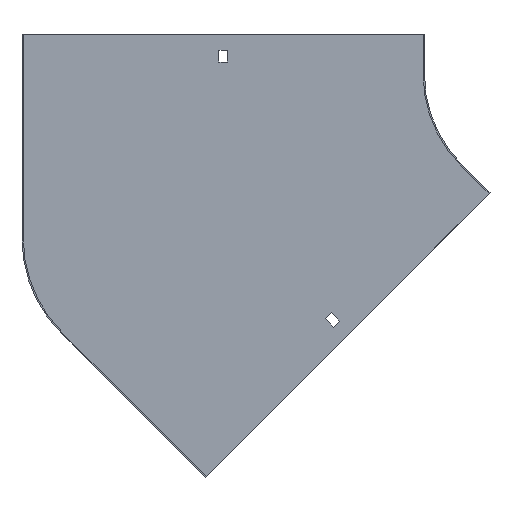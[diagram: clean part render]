
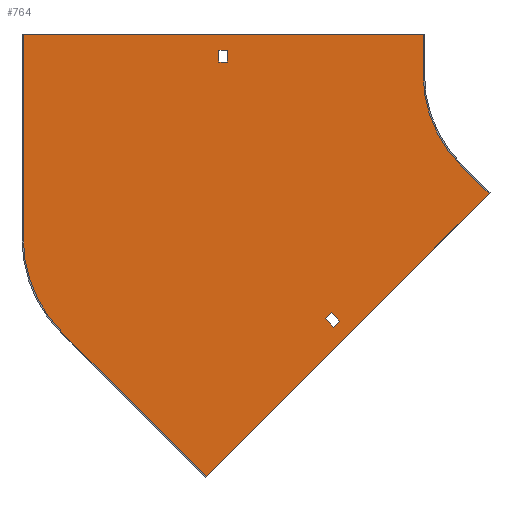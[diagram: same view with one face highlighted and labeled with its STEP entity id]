
A CAD part, front view. The second image highlights one B-rep face of the part: STEP entity #764.
In plain terms, the highlighted planar face has unit normal (0, -1, 0).
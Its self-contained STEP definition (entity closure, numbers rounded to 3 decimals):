
#3 = ORIENTED_EDGE ( 'NONE', *, *, #31, .F. ) ;
#6 = VERTEX_POINT ( 'NONE', #684 ) ;
#14 = LINE ( 'NONE', #70, #423 ) ;
#15 = LINE ( 'NONE', #466, #359 ) ;
#22 = DIRECTION ( 'NONE',  ( -0.707, 0., 0.707 ) ) ;
#31 = EDGE_CURVE ( 'NONE', #194, #618, #160, .T. ) ;
#45 = VERTEX_POINT ( 'NONE', #229 ) ;
#50 = DIRECTION ( 'NONE',  ( 0., 0., -1. ) ) ;
#56 = VERTEX_POINT ( 'NONE', #638 ) ;
#60 = ORIENTED_EDGE ( 'NONE', *, *, #272, .T. ) ;
#61 = VECTOR ( 'NONE', #645, 1000. ) ;
#67 = ORIENTED_EDGE ( 'NONE', *, *, #338, .F. ) ;
#70 = CARTESIAN_POINT ( 'NONE',  ( 0., -1., 9. ) ) ;
#75 = ORIENTED_EDGE ( 'NONE', *, *, #614, .F. ) ;
#79 = EDGE_CURVE ( 'NONE', #56, #399, #14, .T. ) ;
#87 = VECTOR ( 'NONE', #179, 1000. ) ;
#93 = DIRECTION ( 'NONE',  ( -0.707, 0., -0.707 ) ) ;
#101 = LINE ( 'NONE', #492, #426 ) ;
#103 = CARTESIAN_POINT ( 'NONE',  ( -175.893, -1., -175.893 ) ) ;
#109 = EDGE_CURVE ( 'NONE', #621, #413, #676, .T. ) ;
#122 = EDGE_CURVE ( 'NONE', #429, #56, #517, .T. ) ;
#128 = CARTESIAN_POINT ( 'NONE',  ( -48.437, -1., -90.863 ) ) ;
#137 = ORIENTED_EDGE ( 'NONE', *, *, #109, .F. ) ;
#143 = EDGE_CURVE ( 'NONE', #618, #6, #101, .T. ) ;
#160 = LINE ( 'NONE', #103, #619 ) ;
#173 = CARTESIAN_POINT ( 'NONE',  ( 0., -1., 0. ) ) ;
#174 = ORIENTED_EDGE ( 'NONE', *, *, #79, .T. ) ;
#176 = CARTESIAN_POINT ( 'NONE',  ( -99.5, -1., 0. ) ) ;
#179 = DIRECTION ( 'NONE',  ( 0., 0., -1. ) ) ;
#194 = VERTEX_POINT ( 'NONE', #460 ) ;
#198 = EDGE_LOOP ( 'NONE', ( #711, #847, #174, #60 ) ) ;
#205 = FACE_BOUND ( 'NONE', #632, .T. ) ;
#208 = EDGE_CURVE ( 'NONE', #45, #344, #855, .T. ) ;
#210 = CARTESIAN_POINT ( 'NONE',  ( 0., -1., 0. ) ) ;
#215 = CIRCLE ( 'NONE', #749, 100.5 ) ;
#229 = CARTESIAN_POINT ( 'NONE',  ( -404.5, -1., -125.921 ) ) ;
#230 = CARTESIAN_POINT ( 'NONE',  ( -255.25, -1., 18. ) ) ;
#239 = CARTESIAN_POINT ( 'NONE',  ( -255.25, -1., 0. ) ) ;
#258 = DIRECTION ( 'NONE',  ( 0.707, 0., -0.707 ) ) ;
#262 = EDGE_CURVE ( 'NONE', #410, #663, #379, .T. ) ;
#267 = LINE ( 'NONE', #595, #686 ) ;
#271 = FACE_OUTER_BOUND ( 'NONE', #581, .T. ) ;
#272 = EDGE_CURVE ( 'NONE', #399, #289, #840, .T. ) ;
#289 = VERTEX_POINT ( 'NONE', #230 ) ;
#293 = ORIENTED_EDGE ( 'NONE', *, *, #441, .F. ) ;
#304 = CARTESIAN_POINT ( 'NONE',  ( -99.5, -1., 30. ) ) ;
#310 = DIRECTION ( 'NONE',  ( 0.707, 0., 0.707 ) ) ;
#325 = DIRECTION ( 'NONE',  ( -0.707, 0., -0.707 ) ) ;
#329 = VECTOR ( 'NONE', #325, 1000. ) ;
#338 = EDGE_CURVE ( 'NONE', #413, #45, #215, .T. ) ;
#344 = VERTEX_POINT ( 'NONE', #717 ) ;
#349 = CARTESIAN_POINT ( 'NONE',  ( -264.811, -1., -307.238 ) ) ;
#351 = LINE ( 'NONE', #620, #445 ) ;
#359 = VECTOR ( 'NONE', #728, 1000. ) ;
#360 = VERTEX_POINT ( 'NONE', #774 ) ;
#379 = LINE ( 'NONE', #304, #527 ) ;
#385 = ORIENTED_EDGE ( 'NONE', *, *, #262, .F. ) ;
#399 = VERTEX_POINT ( 'NONE', #781 ) ;
#409 = DIRECTION ( 'NONE',  ( 0.707, 0., -0.707 ) ) ;
#410 = VERTEX_POINT ( 'NONE', #575 ) ;
#413 = VERTEX_POINT ( 'NONE', #652 ) ;
#419 = CARTESIAN_POINT ( 'NONE',  ( -70.357, -1., -70.357 ) ) ;
#422 = EDGE_CURVE ( 'NONE', #344, #410, #15, .T. ) ;
#423 = VECTOR ( 'NONE', #464, 1000. ) ;
#426 = VECTOR ( 'NONE', #93, 1000. ) ;
#429 = VERTEX_POINT ( 'NONE', #861 ) ;
#432 = EDGE_CURVE ( 'NONE', #360, #621, #606, .T. ) ;
#433 = ORIENTED_EDGE ( 'NONE', *, *, #566, .F. ) ;
#435 = CARTESIAN_POINT ( 'NONE',  ( -167.761, -1., -193.217 ) ) ;
#441 = EDGE_CURVE ( 'NONE', #605, #360, #267, .T. ) ;
#445 = VECTOR ( 'NONE', #409, 1000. ) ;
#460 = CARTESIAN_POINT ( 'NONE',  ( -163.165, -1., -188.621 ) ) ;
#464 = DIRECTION ( 'NONE',  ( -1., 0., 0. ) ) ;
#466 = CARTESIAN_POINT ( 'NONE',  ( -405.5, -1., 30. ) ) ;
#467 = VECTOR ( 'NONE', #22, 1000. ) ;
#473 = FACE_BOUND ( 'NONE', #198, .T. ) ;
#481 = ORIENTED_EDGE ( 'NONE', *, *, #422, .F. ) ;
#492 = CARTESIAN_POINT ( 'NONE',  ( 6.364, -1., -6.364 ) ) ;
#503 = CARTESIAN_POINT ( 'NONE',  ( -304., -1., -125.921 ) ) ;
#510 = CARTESIAN_POINT ( 'NONE',  ( -404.5, -1., -125.921 ) ) ;
#515 = LINE ( 'NONE', #782, #703 ) ;
#517 = LINE ( 'NONE', #783, #87 ) ;
#527 = VECTOR ( 'NONE', #576, 1000. ) ;
#529 = EDGE_CURVE ( 'NONE', #289, #429, #571, .T. ) ;
#566 = EDGE_CURVE ( 'NONE', #663, #605, #773, .T. ) ;
#567 = DIRECTION ( 'NONE',  ( 1., 0., 0. ) ) ;
#571 = LINE ( 'NONE', #768, #597 ) ;
#575 = CARTESIAN_POINT ( 'NONE',  ( -99.5, -1., 30. ) ) ;
#576 = DIRECTION ( 'NONE',  ( 0., 0., -1. ) ) ;
#581 = EDGE_LOOP ( 'NONE', ( #481, #820, #67, #137, #799, #293, #433, #385 ) ) ;
#588 = DIRECTION ( 'NONE',  ( 0., -1., 0. ) ) ;
#595 = CARTESIAN_POINT ( 'NONE',  ( -70.357, -1., -70.357 ) ) ;
#597 = VECTOR ( 'NONE', #567, 1000. ) ;
#605 = VERTEX_POINT ( 'NONE', #419 ) ;
#606 = LINE ( 'NONE', #128, #329 ) ;
#614 = EDGE_CURVE ( 'NONE', #6, #796, #351, .T. ) ;
#618 = VERTEX_POINT ( 'NONE', #673 ) ;
#619 = VECTOR ( 'NONE', #630, 1000. ) ;
#620 = CARTESIAN_POINT ( 'NONE',  ( -180.489, -1., -180.489 ) ) ;
#621 = VERTEX_POINT ( 'NONE', #812 ) ;
#630 = DIRECTION ( 'NONE',  ( -0.707, 0., 0.707 ) ) ;
#632 = EDGE_LOOP ( 'NONE', ( #3, #716, #75, #761 ) ) ;
#638 = CARTESIAN_POINT ( 'NONE',  ( -248.75, -1., 9. ) ) ;
#645 = DIRECTION ( 'NONE',  ( 0., 0., 1. ) ) ;
#652 = CARTESIAN_POINT ( 'NONE',  ( -375.064, -1., -196.985 ) ) ;
#663 = VERTEX_POINT ( 'NONE', #176 ) ;
#671 = DIRECTION ( 'NONE',  ( 0., 0., -1. ) ) ;
#673 = CARTESIAN_POINT ( 'NONE',  ( -169.529, -1., -182.257 ) ) ;
#674 = AXIS2_PLACEMENT_3D ( 'NONE', #210, #810, #671 ) ;
#676 = LINE ( 'NONE', #349, #467 ) ;
#684 = CARTESIAN_POINT ( 'NONE',  ( -174.125, -1., -186.853 ) ) ;
#686 = VECTOR ( 'NONE', #258, 1000. ) ;
#699 = DIRECTION ( 'NONE',  ( 0., 1., 0. ) ) ;
#703 = VECTOR ( 'NONE', #310, 1000. ) ;
#704 = EDGE_CURVE ( 'NONE', #796, #194, #515, .T. ) ;
#711 = ORIENTED_EDGE ( 'NONE', *, *, #529, .T. ) ;
#716 = ORIENTED_EDGE ( 'NONE', *, *, #704, .F. ) ;
#717 = CARTESIAN_POINT ( 'NONE',  ( -404.5, -1., 30. ) ) ;
#728 = DIRECTION ( 'NONE',  ( 1., 0., 0. ) ) ;
#747 = PLANE ( 'NONE',  #674 ) ;
#749 = AXIS2_PLACEMENT_3D ( 'NONE', #503, #699, #766 ) ;
#761 = ORIENTED_EDGE ( 'NONE', *, *, #143, .F. ) ;
#764 = ADVANCED_FACE ( 'NONE', ( #205, #271, #473 ), #747, .T. ) ;
#766 = DIRECTION ( 'NONE',  ( 0., 0., -1. ) ) ;
#768 = CARTESIAN_POINT ( 'NONE',  ( 0., -1., 18. ) ) ;
#773 = CIRCLE ( 'NONE', #802, 99.5 ) ;
#774 = CARTESIAN_POINT ( 'NONE',  ( -49.144, -1., -91.57 ) ) ;
#776 = DIRECTION ( 'NONE',  ( 0., 0., 1. ) ) ;
#781 = CARTESIAN_POINT ( 'NONE',  ( -255.25, -1., 9. ) ) ;
#782 = CARTESIAN_POINT ( 'NONE',  ( 12.728, -1., -12.728 ) ) ;
#783 = CARTESIAN_POINT ( 'NONE',  ( -248.75, -1., 0. ) ) ;
#795 = VECTOR ( 'NONE', #776, 1000. ) ;
#796 = VERTEX_POINT ( 'NONE', #435 ) ;
#799 = ORIENTED_EDGE ( 'NONE', *, *, #432, .F. ) ;
#802 = AXIS2_PLACEMENT_3D ( 'NONE', #173, #588, #50 ) ;
#810 = DIRECTION ( 'NONE',  ( 0., -1., 0. ) ) ;
#812 = CARTESIAN_POINT ( 'NONE',  ( -264.811, -1., -307.238 ) ) ;
#820 = ORIENTED_EDGE ( 'NONE', *, *, #208, .F. ) ;
#840 = LINE ( 'NONE', #239, #61 ) ;
#847 = ORIENTED_EDGE ( 'NONE', *, *, #122, .T. ) ;
#855 = LINE ( 'NONE', #510, #795 ) ;
#861 = CARTESIAN_POINT ( 'NONE',  ( -248.75, -1., 18. ) ) ;
